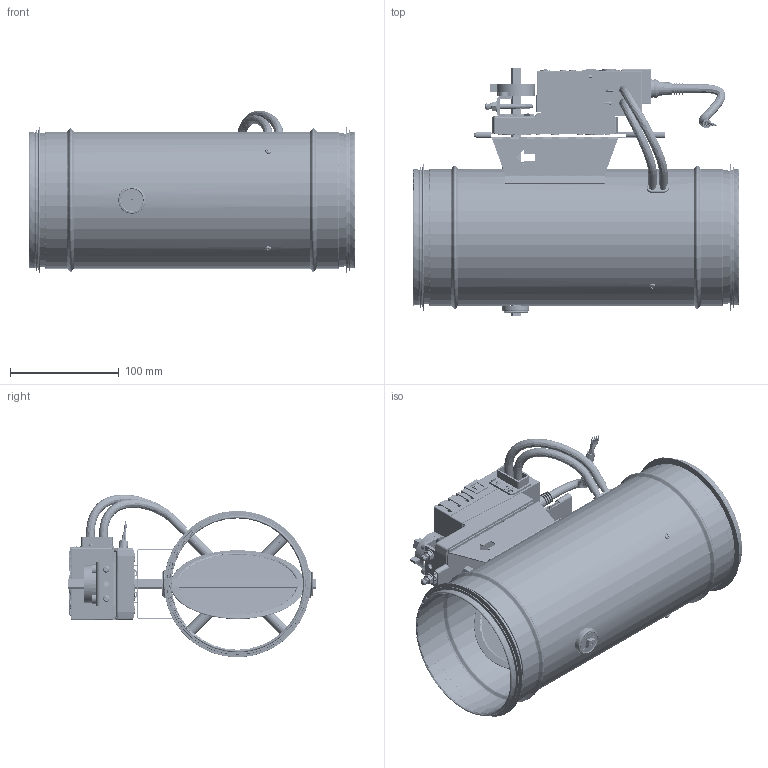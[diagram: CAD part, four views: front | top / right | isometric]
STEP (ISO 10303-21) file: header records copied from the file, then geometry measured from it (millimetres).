
FILE_DESCRIPTION (( 'STEP AP214' ), '1' );
FILE_NAME ('VAV-R125.STEP', '2025-03-10T13:47:15', ( '' ), ( '' ), 'SwSTEP 2.0', 'SolidWorks 2025', '' );
FILE_SCHEMA (( 'AUTOMOTIVE_DESIGN' ));
Length unit declared in the file: millimetre
Products named in the file (19): LDE_DN125; Sicherungsscheibexxx_x_x; Label VAVR125; Dichtung_Vierkantxxx_x_x; DB_DN125; VAV-R125; BLECHSCHRAUBE; CROSS_PLUG; Abschlusskappexxx_x_x; Dichtung_innenxxx_x_x; CROSS_PIECE; BELIMO_MOTOR BRACKET_DN125; VSRV_Zapfen; Dichtungen; CROSS_WING125; CROSS_DN125; Teil4^VAV-R125; LMV-D3-MP; KLAPPE125
Assembly tree (27 placements, depth 3):
  VAV-R125
    DB_DN125
    BELIMO_MOTOR BRACKET_DN125
    CROSS_DN125
      CROSS_PIECE
      CROSS_WING125  x4
      CROSS_PLUG  x3
      VSRV_Zapfen
    LDE_DN125  x2
    BLECHSCHRAUBE  x3
    LMV-D3-MP
    Dichtungen  x2
      Abschlusskappexxx_x_x
      Dichtung_innenxxx_x_x
      Dichtung_Vierkantxxx_x_x
      Sicherungsscheibexxx_x_x
    KLAPPE125
    Label VAVR125
    Teil4^VAV-R125
Bounding box: 300.34 x 228 x 149.55 mm (x, y, z)
Volume: 161853.2 mm3; surface area: 494224.8 mm2
Topology: 30 solids, 48 shells, 6707 faces, 18155 edges, 11920 vertices
Faces by surface type: plane 2954, bspline 2470, cylinder 1023, torus 137, cone 93, sphere 30
Full cylindrical faces by diameter (mm): 1 x4, 1.911 x6, 2 x17, 2.5 x6, 3.5 x3, 4 x2, 5 x2, 5.5 x3, 6 x27, 7.5 x2, 8 x25, 11 x1, 16 x2, 20 x2, 21 x2, 21.422 x2, 23.5 x2, 25 x2, 120.845 x2, 121.74 x2, 122.4 x2, 124.14 x4, 125 x3, 134.74 x2
Entity records: 355389 total; most frequent: CARTESIAN_POINT 159991, ORIENTED_EDGE 34153, EDGE_CURVE 17098, DIRECTION 15790, VERTEX_POINT 11353, B_SPLINE_CURVE_WITH_KNOTS 11132, EDGE_LOOP 7112, FACE_OUTER_BOUND 6508
